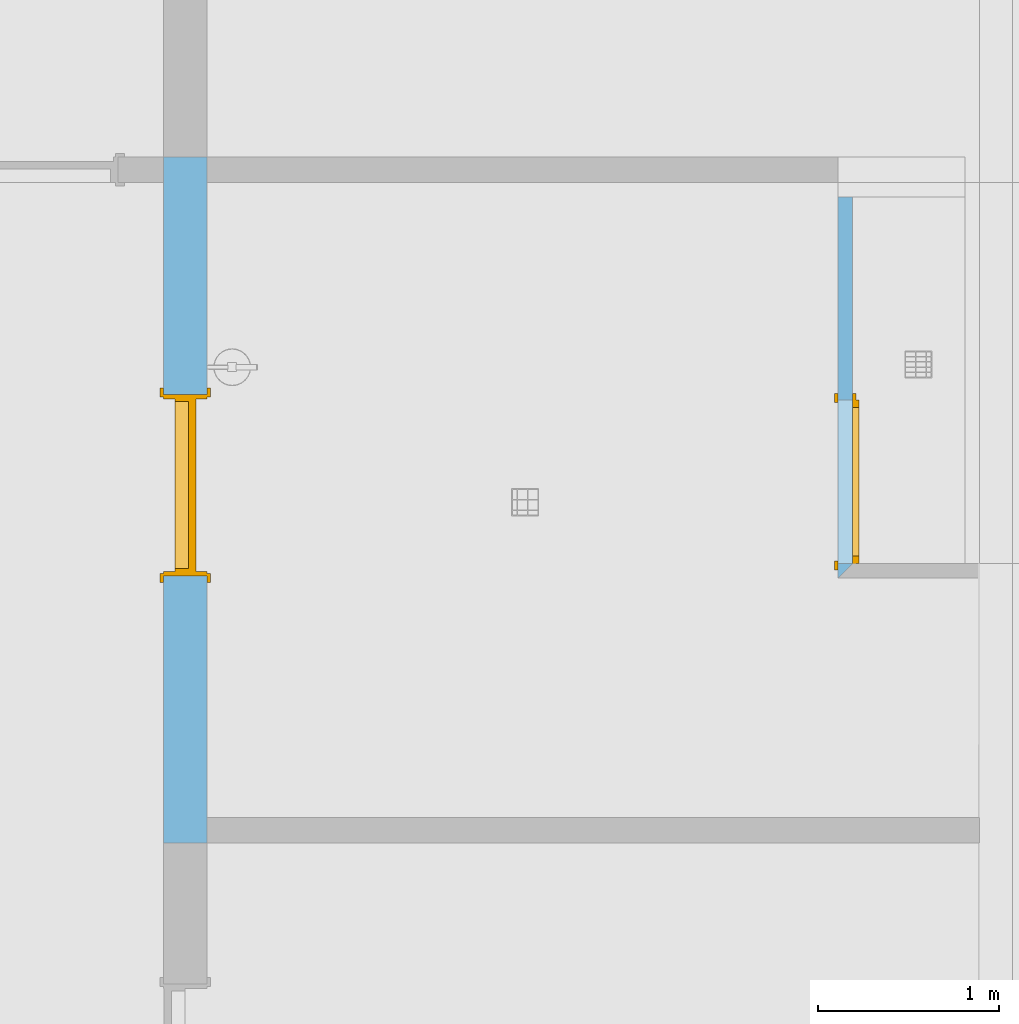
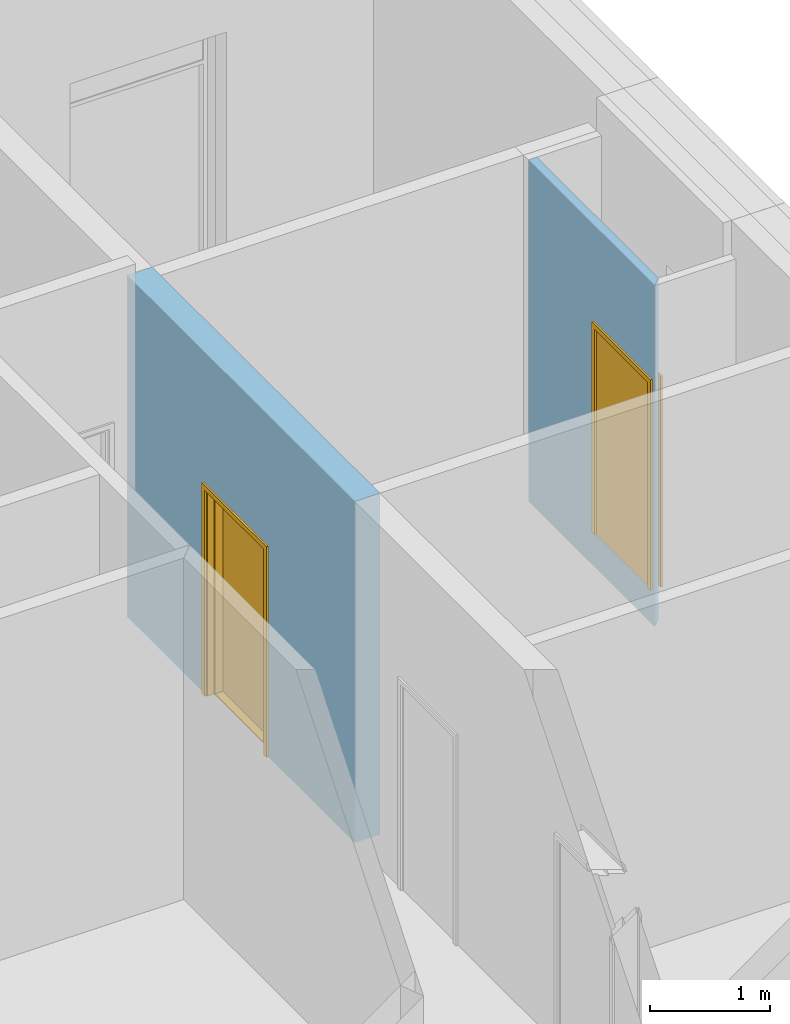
# One storey, part 47 of 112: 2 doors, 2 openings, plus 2 elements that do not belong to this part.
"""IFC2X3 building model written with IfcOpenShell, lengths in millimetres."""

from ifc_helpers import new_model, entity, si_unit, converted_unit, derived_unit, money_unit, direction, frame, origin_with_axes, origin_2d_with_axis, place, context, subcontext, project, spatial, polyline, rectangle, outline, extrude, faceted_brep, material, layer, layer_set, layer_usage, type_object, element, fill, save


model = new_model("IFC2X3")

# Units and contexts
model_context = context("Model", 3, precision=0.01, world=origin_with_axes(), true_north=direction((0.0, 1.0)))
body_context = subcontext(model_context, "Body", "Model", "MODEL_VIEW")
ifc_project = project(units=[si_unit("LENGTHUNIT", "METRE", prefix="MILLI"), si_unit("AREAUNIT", "SQUARE_METRE"), si_unit("VOLUMEUNIT", "CUBIC_METRE"), converted_unit("PLANEANGLEUNIT", "DEGREE", entity("IfcPlaneAngleMeasure", 0.0174532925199), si_unit("PLANEANGLEUNIT", "RADIAN"), dimensions=[0, 0, 0, 0, 0, 0, 0]), si_unit("SOLIDANGLEUNIT", "STERADIAN"), money_unit("EUR"), converted_unit("TIMEUNIT", "Year", entity("IfcTimeMeasure", 31556926.0), si_unit("TIMEUNIT", "SECOND"), dimensions=[0, 0, 1, 0, 0, 0, 0]), si_unit("MASSUNIT", "GRAM", prefix="KILO"), si_unit("THERMODYNAMICTEMPERATUREUNIT", "DEGREE_CELSIUS"), si_unit("LUMINOUSINTENSITYUNIT", "LUMEN"), si_unit("ENERGYUNIT", "JOULE", prefix="MEGA"), derived_unit("THERMALCONDUCTANCEUNIT", [(si_unit("POWERUNIT", "WATT"), 1), (si_unit("LENGTHUNIT", "METRE"), -1), (si_unit("THERMODYNAMICTEMPERATUREUNIT", "KELVIN"), -1)]), derived_unit("SPECIFICHEATCAPACITYUNIT", [(si_unit("ENERGYUNIT", "JOULE"), 1), (si_unit("MASSUNIT", "GRAM", prefix="KILO"), -1), (si_unit("THERMODYNAMICTEMPERATUREUNIT", "KELVIN"), -1)]), derived_unit("MASSDENSITYUNIT", [(si_unit("MASSUNIT", "GRAM", prefix="KILO"), 1), (si_unit("VOLUMEUNIT", "CUBIC_METRE"), -1)])], contexts=[model_context])

# Site, building, storey
site_placement = place(None, origin_with_axes())
site = spatial("IfcSite", under=ifc_project, at=site_placement, Name="Politse- ja Piirivalveameti ning Päästeameti ühishoone", CompositionType="ELEMENT")
building_placement = place(site_placement, origin_with_axes())
building = spatial("IfcBuilding", under=site, at=building_placement, Name="Politse- ja Piirivalveameti ning Päästeameti ühishoone", CompositionType="ELEMENT")
storey_placement = place(building_placement, origin_with_axes())
storey = spatial("IfcBuildingStorey", under=building, at=storey_placement, Name="Esimene korrus", CompositionType="ELEMENT", Elevation=0.0)

# Wall, opening, door
ifc_material_1 = material(Name="KON-05_Betoon Plokk - Konstuktsioon")
ifc_layer_1 = layer(ifc_material_1, 240.0, ventilated="UNKNOWN")
ifc_layer_set_1 = layer_set([ifc_layer_1], Name="SS-04_Sisesein 240")
ifc_layer_usage_1 = layer_usage(ifc_layer_set_1, "AXIS2", "NEGATIVE", 240.0)
wall_type_1 = type_object("IfcWallType", Name="SS-04_Sisesein 240 240", PredefinedType="NOTDEFINED")
wall_1_placement = place(storey_placement, frame((65160.5595507, 33800.0702441, 0.0), z_axis=(0.0, 0.0, 1.0), x_axis=(0.0, -1.0, 0.0)))
wall_1 = element("IfcWallStandardCase", 1, at=wall_1_placement, inside=storey, type_object=wall_type_1, material=ifc_layer_usage_1, Name="SS-04", context=body_context, shape_type="SweptSolid", body=[
    extrude(outline(polyline([(0.0, 0.0), (3780.0, 0.0), (3780.0, 240.0), (0.0, 240.0), (0.0, 0.0)])), origin_with_axes(), (0.0, 0.0, 1.0), 3460.0),
])
opening_1_placement = place(wall_1_placement, frame((1808.34335883, 0.0, 0.0), z_axis=(0.0, 0.0, 1.0), x_axis=(1.0, 0.0, 0.0)))
opening_1 = element("IfcOpeningElement", 2, at=opening_1_placement, cuts=wall_1, Name="TU-01-8", context=body_context, shape_type="SweptSolid", body=[
    extrude(rectangle(XDim=1000.0, YDim=2100.0, at=origin_2d_with_axis()), frame((0.0, 180.0, 1050.0), z_axis=(0.0, -1.0, 0.0), x_axis=(-1.0, 0.0, 0.0)), (0.0, 0.0, 1.0), 420.0),
    extrude(rectangle(XDim=1000.0, YDim=2100.0, at=origin_2d_with_axis()), frame((0.0, 180.0, 1050.0), z_axis=(0.0, 1.0, 0.0), x_axis=(-1.0, 0.0, 0.0)), (0.0, 0.0, 1.0), 300.0),
    extrude(rectangle(XDim=1074.0, YDim=2137.0, at=origin_2d_with_axis()), frame((0.0, 0.0, 1068.5), z_axis=(0.0, -1.0, 0.0), x_axis=(-1.0, 0.0, 0.0)), (0.0, 0.0, 1.0), 300.0),
    extrude(rectangle(XDim=1074.0, YDim=2137.0, at=origin_2d_with_axis()), frame((0.0, 240.0, 1068.5), z_axis=(0.0, 1.0, 0.0), x_axis=(-1.0, 0.0, 0.0)), (0.0, 0.0, 1.0), 300.0),
])
door_style_1 = type_object("IfcDoorStyle", Name="Door 23", ConstructionType="NOTDEFINED", OperationType="SINGLE_SWING_LEFT", ParameterTakesPrecedence=False, Sizeable=False)
door_1_placement = place(opening_1_placement, frame((-500.0, 0.0, 0.0), z_axis=(0.0, 0.0, 1.0), x_axis=(1.0, 0.0, 0.0)))
door_1 = element("IfcDoor", 3, at=door_1_placement, inside=storey, type_object=door_style_1, Name="TU-01-8", ObjectType="DOOR", OverallHeight=2100.0, OverallWidth=1000.0, context=body_context, shape_type="Brep", body=[
    faceted_brep([(28.0, 140.0, 0.0), (40.0, 140.0, 0.0), (40.0, 140.0, 12.0), (28.0, 140.0, 12.0), (972.0, 140.0, 0.0), (960.0, 140.0, 0.0), (960.0, 65.0, 0.0), (40.0, 65.0, 0.0), (40.0, 65.0, 12.0), (960.0, 65.0, 12.0), (960.0, 140.0, 12.0), (972.0, 140.0, 12.0)], [[[0, 1, 2, 3]], [[0, 4, 5, 6, 7, 1]], [[1, 7, 8, 2]], [[3, 2, 8, 9, 10, 11]], [[4, 0, 3, 11]], [[5, 4, 11, 10]], [[6, 5, 10, 9]], [[7, 6, 9, 8]]]),
    faceted_brep([(1000.0, 65.0, 0.0), (1000.0, 0.0, 0.0), (975.0, 0.0, 0.0), (975.0, 65.0, 0.0), (1000.0, 65.0, 2100.0), (1000.0, 0.0, 2100.0), (975.0, 0.0, 2075.0), (975.0, 65.0, 2075.0)], [[[0, 1, 2, 3]], [[4, 5, 1, 0]], [[1, 5, 6, 2]], [[3, 2, 6, 7]], [[0, 3, 7, 4]], [[7, 6, 5, 4]]]),
    faceted_brep([(0.0, 65.0, 2100.0), (0.0, 0.0, 2100.0), (25.0, 0.0, 2075.0), (25.0, 65.0, 2075.0), (0.0, 65.0, 0.0), (0.0, 0.0, 0.0), (25.0, 0.0, 0.0), (25.0, 65.0, 0.0)], [[[0, 1, 2, 3]], [[4, 5, 1, 0]], [[1, 5, 6, 2]], [[3, 2, 6, 7]], [[0, 3, 7, 4]], [[7, 6, 5, 4]]]),
    faceted_brep([(975.0, 65.0, 2075.0), (975.0, 0.0, 2075.0), (25.0, 0.0, 2075.0), (25.0, 65.0, 2075.0), (1000.0, 65.0, 2100.0), (1000.0, 0.0, 2100.0), (0.0, 0.0, 2100.0), (0.0, 65.0, 2100.0)], [[[0, 1, 2, 3]], [[4, 5, 1, 0]], [[1, 5, 6, 2]], [[3, 2, 6, 7]], [[0, 3, 7, 4]], [[7, 6, 5, 4]]]),
    faceted_brep([(1037.0, -19.0, 0.0), (987.0, -19.0, 0.0), (987.0, 0.0, 0.0), (1037.0, 0.0, 0.0), (1037.0, -19.0, 2137.0), (987.0, -19.0, 2087.0), (987.0, 0.0, 2087.0), (1037.0, 0.0, 2137.0)], [[[0, 1, 2, 3]], [[0, 4, 5, 1]], [[1, 5, 6, 2]], [[3, 2, 6, 7]], [[4, 0, 3, 7]], [[5, 4, 7, 6]]]),
    faceted_brep([(-37.0, -19.0, 2137.0), (13.0, -19.0, 2087.0), (13.0, 0.0, 2087.0), (-37.0, 0.0, 2137.0), (-37.0, -19.0, 0.0), (13.0, -19.0, 0.0), (13.0, 0.0, 0.0), (-37.0, 0.0, 0.0)], [[[0, 1, 2, 3]], [[0, 4, 5, 1]], [[1, 5, 6, 2]], [[3, 2, 6, 7]], [[4, 0, 3, 7]], [[5, 4, 7, 6]]]),
    faceted_brep([(1037.0, -19.0, 2137.0), (987.0, -19.0, 2087.0), (987.0, 0.0, 2087.0), (1037.0, 0.0, 2137.0), (-37.0, -19.0, 2137.0), (13.0, -19.0, 2087.0), (13.0, 0.0, 2087.0), (-37.0, 0.0, 2137.0)], [[[0, 1, 2, 3]], [[0, 4, 5, 1]], [[1, 5, 6, 2]], [[3, 2, 6, 7]], [[4, 0, 3, 7]], [[5, 4, 7, 6]]]),
    faceted_brep([(1000.0, 180.0, 0.0), (975.0, 180.0, 0.0), (975.0, 240.0, 0.0), (1000.0, 240.0, 0.0), (1000.0, 180.0, 2100.0), (975.0, 180.0, 2075.0), (975.0, 240.0, 2075.0), (1000.0, 240.0, 2100.0)], [[[0, 1, 2, 3]], [[0, 4, 5, 1]], [[1, 5, 6, 2]], [[3, 2, 6, 7]], [[4, 0, 3, 7]], [[5, 4, 7, 6]]]),
    faceted_brep([(0.0, 180.0, 2100.0), (25.0, 180.0, 2075.0), (25.0, 240.0, 2075.0), (0.0, 240.0, 2100.0), (0.0, 180.0, 0.0), (25.0, 180.0, 0.0), (25.0, 240.0, 0.0), (0.0, 240.0, 0.0)], [[[0, 1, 2, 3]], [[0, 4, 5, 1]], [[1, 5, 6, 2]], [[3, 2, 6, 7]], [[4, 0, 3, 7]], [[5, 4, 7, 6]]]),
    faceted_brep([(1000.0, 180.0, 2100.0), (975.0, 180.0, 2075.0), (975.0, 240.0, 2075.0), (1000.0, 240.0, 2100.0), (0.0, 180.0, 2100.0), (25.0, 180.0, 2075.0), (25.0, 240.0, 2075.0), (0.0, 240.0, 2100.0)], [[[0, 1, 2, 3]], [[0, 4, 5, 1]], [[1, 5, 6, 2]], [[3, 2, 6, 7]], [[4, 0, 3, 7]], [[5, 4, 7, 6]]]),
    faceted_brep([(1037.0, 259.0, 0.0), (1037.0, 240.0, 0.0), (987.0, 240.0, 0.0), (987.0, 259.0, 0.0), (1037.0, 259.0, 2137.0), (1037.0, 240.0, 2137.0), (987.0, 240.0, 2087.0), (987.0, 259.0, 2087.0)], [[[0, 1, 2, 3]], [[4, 5, 1, 0]], [[1, 5, 6, 2]], [[3, 2, 6, 7]], [[0, 3, 7, 4]], [[7, 6, 5, 4]]]),
    faceted_brep([(-37.0, 259.0, 2137.0), (-37.0, 240.0, 2137.0), (13.0, 240.0, 2087.0), (13.0, 259.0, 2087.0), (-37.0, 259.0, 0.0), (-37.0, 240.0, 0.0), (13.0, 240.0, 0.0), (13.0, 259.0, 0.0)], [[[0, 1, 2, 3]], [[4, 5, 1, 0]], [[1, 5, 6, 2]], [[3, 2, 6, 7]], [[0, 3, 7, 4]], [[7, 6, 5, 4]]]),
    faceted_brep([(1037.0, 259.0, 2137.0), (1037.0, 240.0, 2137.0), (987.0, 240.0, 2087.0), (987.0, 259.0, 2087.0), (-37.0, 259.0, 2137.0), (-37.0, 240.0, 2137.0), (13.0, 240.0, 2087.0), (13.0, 259.0, 2087.0)], [[[0, 1, 2, 3]], [[4, 5, 1, 0]], [[1, 5, 6, 2]], [[3, 2, 6, 7]], [[0, 3, 7, 4]], [[7, 6, 5, 4]]]),
    faceted_brep([(960.0, 140.0, 0.0), (960.0, 65.0, 0.0), (960.0, 65.0, 2060.0), (960.0, 140.0, 2060.0), (972.0, 140.0, 0.0), (972.0, 180.0, 0.0), (1000.0, 180.0, 0.0), (1000.0, 65.0, 0.0), (1000.0, 65.0, 2060.0), (972.0, 140.0, 2060.0), (1000.0, 180.0, 2060.0), (972.0, 180.0, 2060.0)], [[[0, 1, 2, 3]], [[4, 5, 6, 7, 1, 0]], [[1, 7, 8, 2]], [[9, 3, 2, 8, 10, 11]], [[9, 4, 0, 3]], [[11, 5, 4, 9]], [[11, 10, 6, 5]], [[6, 10, 8, 7]]]),
    faceted_brep([(28.0, 140.0, 2060.0), (28.0, 180.0, 2060.0), (0.0, 180.0, 2060.0), (0.0, 65.0, 2060.0), (40.0, 65.0, 2060.0), (40.0, 140.0, 2060.0), (28.0, 140.0, 0.0), (28.0, 180.0, 0.0), (0.0, 180.0, 0.0), (0.0, 65.0, 0.0), (40.0, 65.0, 0.0), (40.0, 140.0, 0.0)], [[[0, 1, 2, 3, 4, 5]], [[0, 6, 7, 1]], [[7, 8, 2, 1]], [[2, 8, 9, 3]], [[3, 9, 10, 4]], [[5, 4, 10, 11]], [[5, 11, 6, 0]], [[6, 11, 10, 9, 8, 7]]]),
    faceted_brep([(972.0, 180.0, 2072.0), (28.0, 180.0, 2072.0), (28.0, 180.0, 2060.0), (0.0, 180.0, 2060.0), (0.0, 180.0, 2100.0), (1000.0, 180.0, 2100.0), (1000.0, 180.0, 2060.0), (972.0, 180.0, 2060.0), (972.0, 140.0, 2072.0), (28.0, 140.0, 2072.0), (28.0, 140.0, 2060.0), (40.0, 140.0, 2060.0), (40.0, 65.0, 2060.0), (0.0, 65.0, 2060.0), (0.0, 65.0, 2100.0), (1000.0, 65.0, 2100.0), (1000.0, 65.0, 2060.0), (972.0, 140.0, 2060.0), (960.0, 65.0, 2060.0), (960.0, 140.0, 2060.0)], [[[0, 1, 2, 3, 4, 5, 6, 7]], [[0, 8, 9, 1]], [[1, 9, 10, 2]], [[10, 11, 12, 13, 3, 2]], [[4, 3, 13, 14]], [[5, 4, 14, 15]], [[6, 5, 15, 16]], [[17, 7, 6, 16, 18, 19]], [[7, 17, 8, 0]], [[10, 9, 8, 17, 19, 11]], [[19, 18, 12, 11]], [[12, 18, 16, 15, 14, 13]]]),
    faceted_brep([(28.0, 180.0, 0.0), (972.0, 180.0, 0.0), (972.0, 140.0, 0.0), (28.0, 140.0, 0.0), (28.0, 180.0, 2072.0), (972.0, 180.0, 2072.0), (972.0, 140.0, 2072.0), (28.0, 140.0, 2072.0)], [[[0, 1, 2, 3]], [[0, 4, 5, 1]], [[1, 5, 6, 2]], [[3, 2, 6, 7]], [[4, 0, 3, 7]], [[5, 4, 7, 6]]]),
])
fill(opening_1, door_1)

ifc_material_2 = material(Name="SOJ-02_Soojustus - Fiiber Kõva")
ifc_layer_2 = layer(ifc_material_2, 80.0, ventilated="UNKNOWN")
ifc_layer_set_2 = layer_set([ifc_layer_2], Name="SS-10_Sisesein SW-paneel 80")
ifc_layer_usage_2 = layer_usage(ifc_layer_set_2, "AXIS2", "NEGATIVE", 0.0)
wall_type_2 = type_object("IfcWallType", Name="SS-10_Sisesein SW-paneel 80 80", PredefinedType="NOTDEFINED")
wall_2_placement = place(storey_placement, frame((68960.4231925, 33580.0702441, 0.0), z_axis=(0.0, 0.0, 1.0), x_axis=(0.0, -1.0, 0.0)))
wall_2 = element("IfcWallStandardCase", 4, at=wall_2_placement, inside=storey, type_object=wall_type_2, material=ifc_layer_usage_2, Name="SS-10", context=body_context, shape_type="SweptSolid", body=[
    extrude(outline(polyline([(0.0, -80.0), (2099.87163543, -80.0), (2019.87163543, 0.0), (0.0, 0.0), (0.0, -80.0)])), origin_with_axes(), (0.0, 0.0, 1.0), 3460.0),
])
opening_2_placement = place(wall_2_placement, frame((1569.87163543, 0.0, 347.0), z_axis=(0.0, 0.0, 1.0), x_axis=(1.0, 0.0, 0.0)))
opening_2 = element("IfcOpeningElement", 5, at=opening_2_placement, cuts=wall_2, Name="SU-01-7", context=body_context, shape_type="SweptSolid", body=[
    extrude(rectangle(XDim=900.0, YDim=2100.0, at=origin_2d_with_axis()), frame((0.0, 80.0, 1050.0), z_axis=(0.0, 1.0, 0.0), x_axis=(1.0, 0.0, 0.0)), (0.0, 0.0, -1.0), 240.0),
    extrude(rectangle(XDim=974.0, YDim=2137.0, at=origin_2d_with_axis()), frame((0.0, 0.0, 1068.5), z_axis=(0.0, 1.0, 0.0), x_axis=(1.0, 0.0, 0.0)), (0.0, 0.0, 1.0), 80.0),
    extrude(rectangle(XDim=974.0, YDim=2137.0, at=origin_2d_with_axis()), frame((0.0, -80.0, 1068.5), z_axis=(0.0, -1.0, 0.0), x_axis=(1.0, 0.0, 0.0)), (0.0, 0.0, 1.0), 80.0),
])
door_style_2 = type_object("IfcDoorStyle", Name="Door 23", ConstructionType="NOTDEFINED", OperationType="SINGLE_SWING_LEFT", ParameterTakesPrecedence=False, Sizeable=False)
door_2_placement = place(opening_2_placement, frame((450.0, 0.0, 0.0), z_axis=(0.0, 0.0, 1.0), x_axis=(-1.0, 0.0, 0.0)))
door_2 = element("IfcDoor", 6, at=door_2_placement, inside=storey, type_object=door_style_2, Name="SU-01-7", ObjectType="DOOR", OverallHeight=2100.0, OverallWidth=900.0, context=body_context, shape_type="Brep", body=[
    faceted_brep([(28.0, 40.0, 0.0), (40.0, 40.0, 0.0), (40.0, 40.0, 12.0), (28.0, 40.0, 12.0), (872.0, 40.0, 0.0), (860.0, 40.0, 0.0), (860.0, -35.0, 0.0), (40.0, -35.0, 0.0), (40.0, -35.0, 12.0), (860.0, -35.0, 12.0), (860.0, 40.0, 12.0), (872.0, 40.0, 12.0)], [[[0, 1, 2, 3]], [[0, 4, 5, 6, 7, 1]], [[1, 7, 8, 2]], [[3, 2, 8, 9, 10, 11]], [[4, 0, 3, 11]], [[5, 4, 11, 10]], [[6, 5, 10, 9]], [[7, 6, 9, 8]]]),
    faceted_brep([(937.0, -19.0, 0.0), (887.0, -19.0, 0.0), (887.0, 0.0, 0.0), (937.0, 0.0, 0.0), (937.0, -19.0, 2137.0), (887.0, -19.0, 2087.0), (887.0, 0.0, 2087.0), (937.0, 0.0, 2137.0)], [[[0, 1, 2, 3]], [[0, 4, 5, 1]], [[1, 5, 6, 2]], [[3, 2, 6, 7]], [[4, 0, 3, 7]], [[5, 4, 7, 6]]]),
    faceted_brep([(-37.0, -19.0, 2137.0), (13.0, -19.0, 2087.0), (13.0, 0.0, 2087.0), (-37.0, 0.0, 2137.0), (-37.0, -19.0, 0.0), (13.0, -19.0, 0.0), (13.0, 0.0, 0.0), (-37.0, 0.0, 0.0)], [[[0, 1, 2, 3]], [[0, 4, 5, 1]], [[1, 5, 6, 2]], [[3, 2, 6, 7]], [[4, 0, 3, 7]], [[5, 4, 7, 6]]]),
    faceted_brep([(937.0, -19.0, 2137.0), (887.0, -19.0, 2087.0), (887.0, 0.0, 2087.0), (937.0, 0.0, 2137.0), (-37.0, -19.0, 2137.0), (13.0, -19.0, 2087.0), (13.0, 0.0, 2087.0), (-37.0, 0.0, 2137.0)], [[[0, 1, 2, 3]], [[0, 4, 5, 1]], [[1, 5, 6, 2]], [[3, 2, 6, 7]], [[4, 0, 3, 7]], [[5, 4, 7, 6]]]),
    faceted_brep([(937.0, 99.0, 0.0), (937.0, 80.0, 0.0), (887.0, 80.0, 0.0), (887.0, 99.0, 0.0), (937.0, 99.0, 2137.0), (937.0, 80.0, 2137.0), (887.0, 80.0, 2087.0), (887.0, 99.0, 2087.0)], [[[0, 1, 2, 3]], [[4, 5, 1, 0]], [[1, 5, 6, 2]], [[3, 2, 6, 7]], [[0, 3, 7, 4]], [[7, 6, 5, 4]]]),
    faceted_brep([(-37.0, 99.0, 2137.0), (-37.0, 80.0, 2137.0), (13.0, 80.0, 2087.0), (13.0, 99.0, 2087.0), (-37.0, 99.0, 0.0), (-37.0, 80.0, 0.0), (13.0, 80.0, 0.0), (13.0, 99.0, 0.0)], [[[0, 1, 2, 3]], [[4, 5, 1, 0]], [[1, 5, 6, 2]], [[3, 2, 6, 7]], [[0, 3, 7, 4]], [[7, 6, 5, 4]]]),
    faceted_brep([(937.0, 99.0, 2137.0), (937.0, 80.0, 2137.0), (887.0, 80.0, 2087.0), (887.0, 99.0, 2087.0), (-37.0, 99.0, 2137.0), (-37.0, 80.0, 2137.0), (13.0, 80.0, 2087.0), (13.0, 99.0, 2087.0)], [[[0, 1, 2, 3]], [[4, 5, 1, 0]], [[1, 5, 6, 2]], [[3, 2, 6, 7]], [[0, 3, 7, 4]], [[7, 6, 5, 4]]]),
    faceted_brep([(860.0, 40.0, 0.0), (860.0, -35.0, 0.0), (860.0, -35.0, 2060.0), (860.0, 40.0, 2060.0), (872.0, 40.0, 0.0), (872.0, 80.0, 0.0), (900.0, 80.0, 0.0), (900.0, -35.0, 0.0), (900.0, -35.0, 2060.0), (872.0, 40.0, 2060.0), (900.0, 80.0, 2060.0), (872.0, 80.0, 2060.0)], [[[0, 1, 2, 3]], [[4, 5, 6, 7, 1, 0]], [[1, 7, 8, 2]], [[9, 3, 2, 8, 10, 11]], [[9, 4, 0, 3]], [[11, 5, 4, 9]], [[11, 10, 6, 5]], [[6, 10, 8, 7]]]),
    faceted_brep([(28.0, 40.0, 2060.0), (28.0, 80.0, 2060.0), (0.0, 80.0, 2060.0), (0.0, -35.0, 2060.0), (40.0, -35.0, 2060.0), (40.0, 40.0, 2060.0), (28.0, 40.0, 0.0), (28.0, 80.0, 0.0), (0.0, 80.0, 0.0), (0.0, -35.0, 0.0), (40.0, -35.0, 0.0), (40.0, 40.0, 0.0)], [[[0, 1, 2, 3, 4, 5]], [[0, 6, 7, 1]], [[7, 8, 2, 1]], [[2, 8, 9, 3]], [[3, 9, 10, 4]], [[5, 4, 10, 11]], [[5, 11, 6, 0]], [[6, 11, 10, 9, 8, 7]]]),
    faceted_brep([(872.0, 80.0, 2072.0), (28.0, 80.0, 2072.0), (28.0, 80.0, 2060.0), (0.0, 80.0, 2060.0), (0.0, 80.0, 2100.0), (900.0, 80.0, 2100.0), (900.0, 80.0, 2060.0), (872.0, 80.0, 2060.0), (872.0, 40.0, 2072.0), (28.0, 40.0, 2072.0), (28.0, 40.0, 2060.0), (40.0, 40.0, 2060.0), (40.0, -35.0, 2060.0), (0.0, -35.0, 2060.0), (0.0, -35.0, 2100.0), (900.0, -35.0, 2100.0), (900.0, -35.0, 2060.0), (872.0, 40.0, 2060.0), (860.0, -35.0, 2060.0), (860.0, 40.0, 2060.0)], [[[0, 1, 2, 3, 4, 5, 6, 7]], [[0, 8, 9, 1]], [[1, 9, 10, 2]], [[10, 11, 12, 13, 3, 2]], [[4, 3, 13, 14]], [[5, 4, 14, 15]], [[6, 5, 15, 16]], [[17, 7, 6, 16, 18, 19]], [[7, 17, 8, 0]], [[10, 9, 8, 17, 19, 11]], [[19, 18, 12, 11]], [[12, 18, 16, 15, 14, 13]]]),
    faceted_brep([(28.0, 80.0, 0.0), (872.0, 80.0, 0.0), (872.0, 40.0, 0.0), (28.0, 40.0, 0.0), (28.0, 80.0, 2072.0), (872.0, 80.0, 2072.0), (872.0, 40.0, 2072.0), (28.0, 40.0, 2072.0)], [[[0, 1, 2, 3]], [[0, 4, 5, 1]], [[1, 5, 6, 2]], [[3, 2, 6, 7]], [[4, 0, 3, 7]], [[5, 4, 7, 6]]]),
])
fill(opening_2, door_2)

save(model, "model.ifc")
